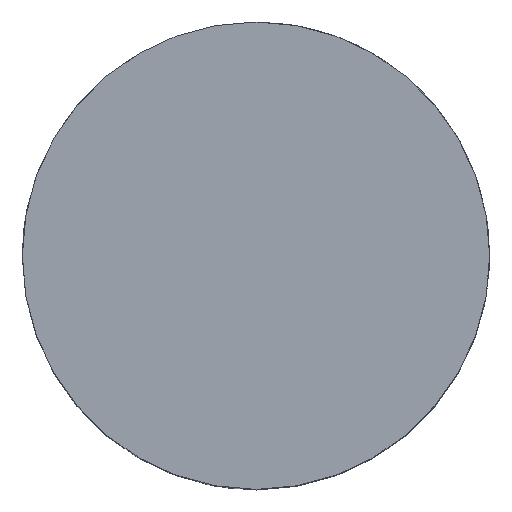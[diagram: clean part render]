
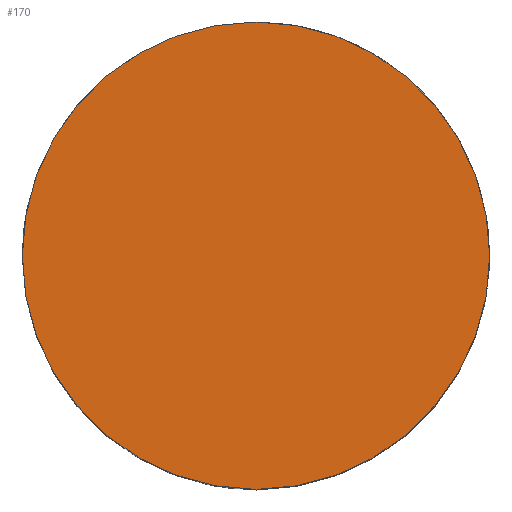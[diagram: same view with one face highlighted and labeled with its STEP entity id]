
A CAD part, top view. The second image highlights one B-rep face of the part: STEP entity #170.
In plain terms, the highlighted planar face has unit normal (0, 0, 1).
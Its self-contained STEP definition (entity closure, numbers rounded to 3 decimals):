
#170=ADVANCED_FACE('',(#315),#316,.T.);
#315=FACE_OUTER_BOUND('',#499,.T.);
#316=PLANE('',#500);
#499=EDGE_LOOP('',(#935,#936));
#500=AXIS2_PLACEMENT_3D('',#937,#938,#939);
#935=ORIENTED_EDGE('',*,*,#1325,.F.);
#936=ORIENTED_EDGE('',*,*,#1324,.F.);
#937=CARTESIAN_POINT('',(164.,0.0,19.5));
#938=DIRECTION('',(0.0,0.0,1.0));
#939=DIRECTION('',(0.,-1.0,0.0));
#1324=EDGE_CURVE('',#1574,#1570,#1576,.T.);
#1325=EDGE_CURVE('',#1570,#1574,#1577,.T.);
#1570=VERTEX_POINT('',#1913);
#1574=VERTEX_POINT('',#1918);
#1576=CIRCLE('',#1921,14.0);
#1577=CIRCLE('',#1922,14.0);
#1913=CARTESIAN_POINT('',(164.,-14.0,19.5));
#1918=CARTESIAN_POINT('',(164.,14.0,19.5));
#1921=AXIS2_PLACEMENT_3D('',#2306,#2307,#2308);
#1922=AXIS2_PLACEMENT_3D('',#2309,#2310,#2311);
#2306=CARTESIAN_POINT('',(164.,0.0,19.5));
#2307=DIRECTION('',(-0.0,0.0,-1.0));
#2308=DIRECTION('',(0.,-1.0,0.0));
#2309=CARTESIAN_POINT('',(164.,0.0,19.5));
#2310=DIRECTION('',(-0.0,0.0,-1.0));
#2311=DIRECTION('',(0.,-1.0,0.0));
